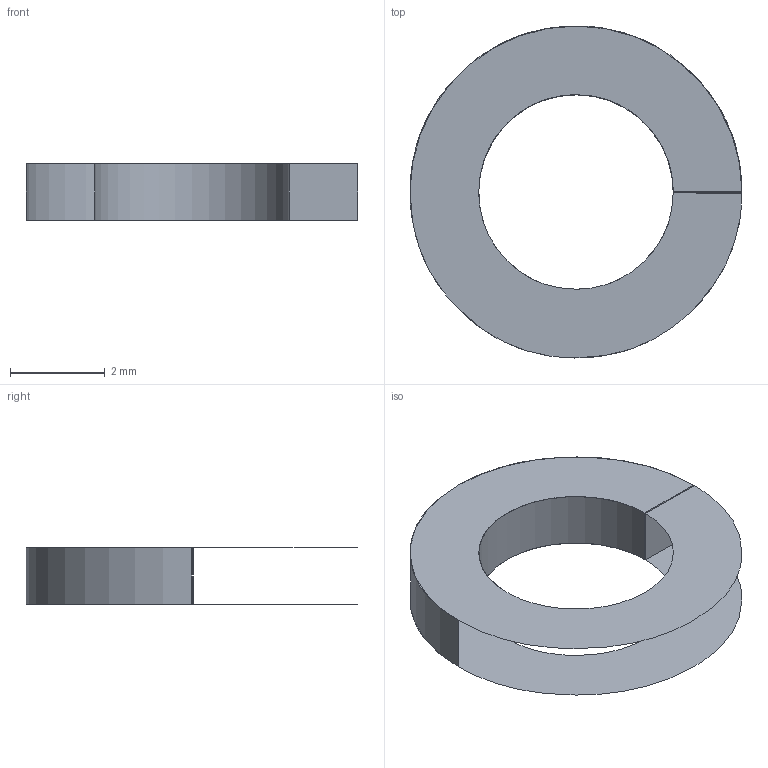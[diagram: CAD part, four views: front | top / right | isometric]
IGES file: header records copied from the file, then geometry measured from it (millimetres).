
Global section: file name: E:\UnigraphicsGraphicData\MISUMI_PRESS-PARTS\IGES\3d_cbw4_06363_r00.igs; native system: NX V5.0; preprocessor: UGS NX IGES V5.0; author: MISUMI; date: 20110105.160204; units: millimetre
Bounding box: 7 x 7 x 1.2 mm (x, y, z)
Surface area: 75 mm2 (no closed solid volume)
Topology: 0 solids, 0 shells, 6 faces, 52 edges, 52 vertices
Faces by surface type: bspline 6
